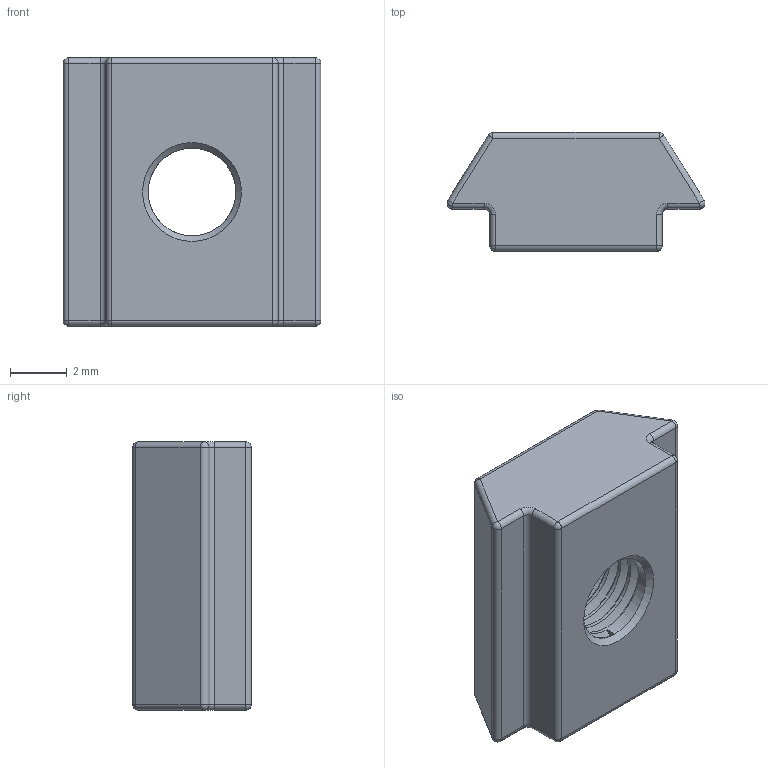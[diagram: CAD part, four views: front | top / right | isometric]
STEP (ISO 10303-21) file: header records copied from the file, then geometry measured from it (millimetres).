
FILE_DESCRIPTION(/* description */ ('STEP AP242 Edition 2','CAx-IF Rec.Pracs.---Representation and Presentation of Product Manufacturing Information (PMI)---4.0---2014-10-13','CAx-IF Rec.Pracs.---3D Tessellated Geometry---0.4---2014-09-14','2;1','CAx-IF Rec.Pracs.---User Defined Attributes---1.5---2016-08-15'),/* implementation_level */ '2;1');
FILE_NAME(/* name */ 'Final Build - M3 T-nut (1)',/* time_stamp */ '2026-08-31T23:26:13Z',/* author */ (''),/* organization */ (''),/* preprocessor_version */ 'ST-DEVELOPER v20',/* originating_system */ 'ONSHAPE BY PTC INC, 1.220',/* authorisation */ ' ');
FILE_SCHEMA (('AP242_MANAGED_MODEL_BASED_3D_ENGINEERING_MIM_LF { 1 0 10303 442 3 1 4 }'));
Length unit declared in the file: metre
Products named in the file (1): M3 T-nut
Bounding box: 9.13 x 4.2 x 9.5 mm (x, y, z)
Volume: 250.2 mm3; surface area: 332.6 mm2
Topology: 1 solids, 1 shells, 56 faces, 158 edges, 92 vertices
Faces by surface type: cylinder 26, sphere 12, plane 11, torus 4, bspline 2, cone 1
Entity records: 2436 total; most frequent: CARTESIAN_POINT 1112, ORIENTED_EDGE 288, DIRECTION 274, EDGE_CURVE 144, AXIS2_PLACEMENT_3D 111, VERTEX_POINT 91, EDGE_LOOP 59, FACE_BOUND 59
